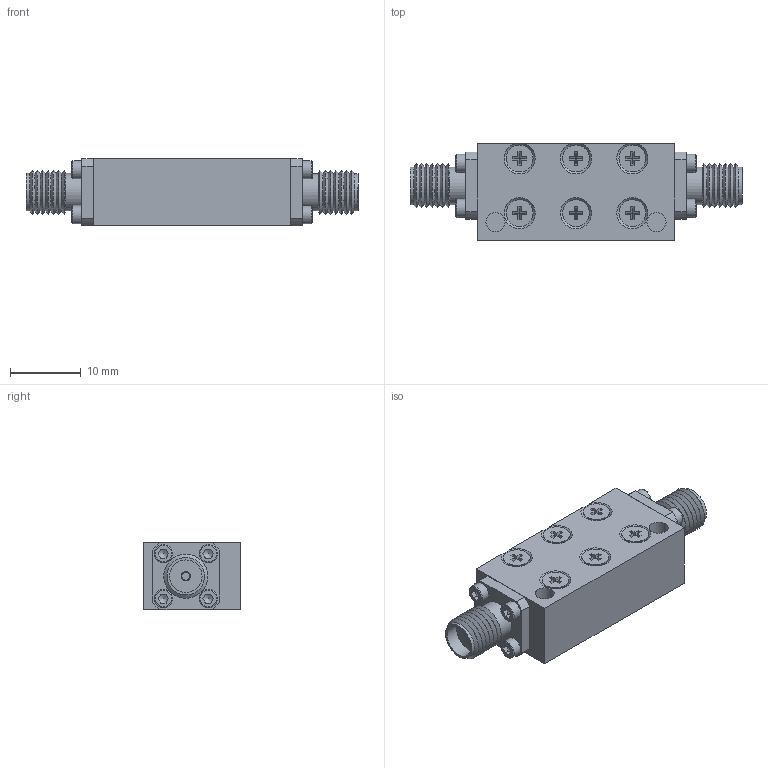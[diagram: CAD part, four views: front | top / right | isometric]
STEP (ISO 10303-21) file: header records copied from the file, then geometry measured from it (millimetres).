
FILE_DESCRIPTION(/* description */ ('Unknown'),/* implementation_level */ '2;1');
FILE_NAME(/* name */ 'DETI_MICROWAVE_HIGHPASS_FILTER_011020_STEP',/* time_stamp */ '2021-06-01T17:26:44+02:00',/* author */ ('ALG'),/* organization */ ('DETI'),/* preprocessor_version */ 'ST-DEVELOPER v16.7',/* originating_system */ 'Solid Edge',/* authorisation */ 'Unknown');
FILE_SCHEMA (('AUTOMOTIVE_DESIGN {1 0 10303 214 3 1 1}'));
Length unit declared in the file: millimetre
Products named in the file (1): HPF-SS16000-60-18000-40000-KF-KF-long2
Bounding box: 46.94 x 13.69 x 9.6 mm (x, y, z)
Volume: 4047.4 mm3; surface area: 3582.8 mm2
Topology: 1 solids, 18 shells, 412 faces, 955 edges, 618 vertices
Faces by surface type: plane 236, cylinder 98, cone 64, torus 14
Full cylindrical faces by diameter (mm): 1.075 x16, 1.1 x2, 1.27 x4, 1.4 x8, 1.567 x6, 1.8 x8, 2 x12, 2.1 x6, 2.6 x8, 2.7 x4, 3.8 x6, 4.1 x2, 4.6 x2, 5.3 x4
Entity records: 13211 total; most frequent: CARTESIAN_POINT 1861, DIRECTION 1749, ORIENTED_EDGE 1440, EDGE_CURVE 720, AXIS2_PLACEMENT_3D 669, FACE_BOUND 653, EDGE_LOOP 637, VERTEX_POINT 563
